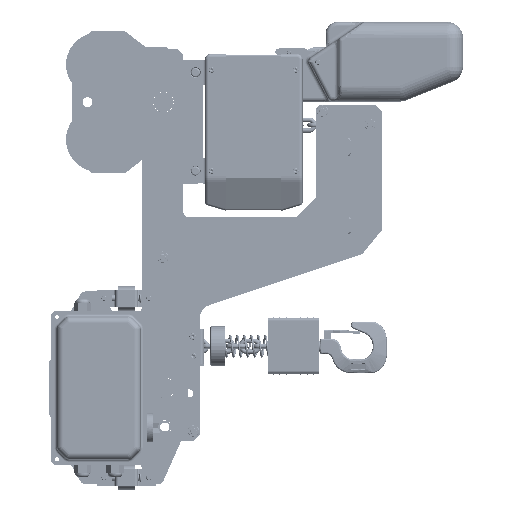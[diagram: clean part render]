
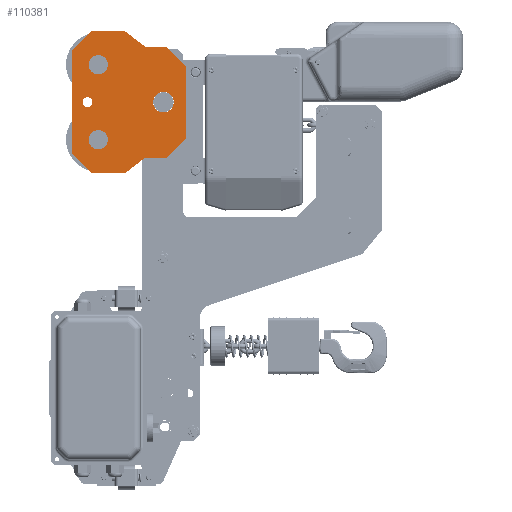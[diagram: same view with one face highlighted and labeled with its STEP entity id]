
A CAD part, left-side view. The second image highlights one B-rep face of the part: STEP entity #110381.
In plain terms, the highlighted planar face has unit normal (-1, 0, 0).
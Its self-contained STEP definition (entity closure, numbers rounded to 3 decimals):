
#6467=LINE('',#216607,#14108);
#6471=LINE('',#216616,#14112);
#6475=LINE('',#216625,#14116);
#6486=LINE('',#216671,#14127);
#6487=LINE('',#216674,#14128);
#6488=LINE('',#216676,#14129);
#6489=LINE('',#216678,#14130);
#6490=LINE('',#216680,#14131);
#6491=LINE('',#216684,#14132);
#6492=LINE('',#216688,#14133);
#6493=LINE('',#216695,#14134);
#6494=LINE('',#216699,#14135);
#14108=VECTOR('',#155306,1000.);
#14112=VECTOR('',#155312,1000.);
#14116=VECTOR('',#155318,1000.);
#14127=VECTOR('',#155359,1000.);
#14128=VECTOR('',#155360,1000.);
#14129=VECTOR('',#155361,1000.);
#14130=VECTOR('',#155362,1000.);
#14131=VECTOR('',#155363,1000.);
#14132=VECTOR('',#155366,1000.);
#14133=VECTOR('',#155369,1000.);
#14134=VECTOR('',#155378,1000.);
#14135=VECTOR('',#155381,1000.);
#19273=PLANE('',#135192);
#23381=CIRCLE('',#135193,14.75);
#23382=CIRCLE('',#135194,14.75);
#23383=CIRCLE('',#135195,1.);
#23384=CIRCLE('',#135196,1.);
#23385=CIRCLE('',#135197,1.);
#23386=CIRCLE('',#135198,1.);
#23387=CIRCLE('',#135199,1.);
#23388=CIRCLE('',#135200,1.);
#23389=CIRCLE('',#135201,1.);
#23390=CIRCLE('',#135202,1.);
#23391=CIRCLE('',#135203,7.5);
#23392=CIRCLE('',#135204,15.75);
#41855=ORIENTED_EDGE('',*,*,#66190,.T.);
#41856=ORIENTED_EDGE('',*,*,#66191,.T.);
#41857=ORIENTED_EDGE('',*,*,#66192,.F.);
#41858=ORIENTED_EDGE('',*,*,#66193,.T.);
#41859=ORIENTED_EDGE('',*,*,#66194,.F.);
#41860=ORIENTED_EDGE('',*,*,#66195,.T.);
#41861=ORIENTED_EDGE('',*,*,#66196,.F.);
#41862=ORIENTED_EDGE('',*,*,#66197,.T.);
#41863=ORIENTED_EDGE('',*,*,#66198,.T.);
#41864=ORIENTED_EDGE('',*,*,#66199,.T.);
#41865=ORIENTED_EDGE('',*,*,#66200,.F.);
#41866=ORIENTED_EDGE('',*,*,#66201,.T.);
#41867=ORIENTED_EDGE('',*,*,#66168,.F.);
#41868=ORIENTED_EDGE('',*,*,#66202,.T.);
#41869=ORIENTED_EDGE('',*,*,#66164,.F.);
#41870=ORIENTED_EDGE('',*,*,#66203,.T.);
#41871=ORIENTED_EDGE('',*,*,#66160,.F.);
#41872=ORIENTED_EDGE('',*,*,#66204,.T.);
#41873=ORIENTED_EDGE('',*,*,#66205,.F.);
#41874=ORIENTED_EDGE('',*,*,#66206,.T.);
#41875=ORIENTED_EDGE('',*,*,#66207,.T.);
#41876=ORIENTED_EDGE('',*,*,#66208,.T.);
#41877=ORIENTED_EDGE('',*,*,#66209,.F.);
#41878=ORIENTED_EDGE('',*,*,#66210,.F.);
#66160=EDGE_CURVE('',#79434,#79435,#6467,.F.);
#66164=EDGE_CURVE('',#79438,#79439,#6471,.F.);
#66168=EDGE_CURVE('',#79442,#79443,#6475,.F.);
#66190=EDGE_CURVE('',#79461,#79461,#23381,.T.);
#66191=EDGE_CURVE('',#79462,#79462,#23382,.T.);
#66192=EDGE_CURVE('',#79463,#79464,#6486,.T.);
#66193=EDGE_CURVE('',#79463,#79465,#6487,.F.);
#66194=EDGE_CURVE('',#79466,#79465,#6488,.F.);
#66195=EDGE_CURVE('',#79466,#79467,#6489,.F.);
#66196=EDGE_CURVE('',#79468,#79467,#6490,.T.);
#66197=EDGE_CURVE('',#79468,#79469,#23383,.F.);
#66198=EDGE_CURVE('',#79469,#79470,#6491,.F.);
#66199=EDGE_CURVE('',#79470,#79471,#23384,.T.);
#66200=EDGE_CURVE('',#79472,#79471,#6492,.F.);
#66201=EDGE_CURVE('',#79472,#79443,#23385,.F.);
#66202=EDGE_CURVE('',#79442,#79439,#23386,.F.);
#66203=EDGE_CURVE('',#79438,#79435,#23387,.F.);
#66204=EDGE_CURVE('',#79434,#79473,#23388,.F.);
#66205=EDGE_CURVE('',#79474,#79473,#6493,.F.);
#66206=EDGE_CURVE('',#79474,#79475,#23389,.T.);
#66207=EDGE_CURVE('',#79475,#79476,#6494,.F.);
#66208=EDGE_CURVE('',#79476,#79464,#23390,.F.);
#66209=EDGE_CURVE('',#79477,#79477,#23391,.F.);
#66210=EDGE_CURVE('',#79478,#79478,#23392,.F.);
#79434=VERTEX_POINT('',#216606);
#79435=VERTEX_POINT('',#216608);
#79438=VERTEX_POINT('',#216615);
#79439=VERTEX_POINT('',#216617);
#79442=VERTEX_POINT('',#216624);
#79443=VERTEX_POINT('',#216626);
#79461=VERTEX_POINT('',#216668);
#79462=VERTEX_POINT('',#216670);
#79463=VERTEX_POINT('',#216672);
#79464=VERTEX_POINT('',#216673);
#79465=VERTEX_POINT('',#216675);
#79466=VERTEX_POINT('',#216677);
#79467=VERTEX_POINT('',#216679);
#79468=VERTEX_POINT('',#216681);
#79469=VERTEX_POINT('',#216683);
#79470=VERTEX_POINT('',#216685);
#79471=VERTEX_POINT('',#216687);
#79472=VERTEX_POINT('',#216689);
#79473=VERTEX_POINT('',#216694);
#79474=VERTEX_POINT('',#216696);
#79475=VERTEX_POINT('',#216698);
#79476=VERTEX_POINT('',#216700);
#79477=VERTEX_POINT('',#216703);
#79478=VERTEX_POINT('',#216705);
#92116=EDGE_LOOP('',(#41855));
#92117=EDGE_LOOP('',(#41856));
#92118=EDGE_LOOP('',(#41857,#41858,#41859,#41860,#41861,#41862,#41863,#41864,
#41865,#41866,#41867,#41868,#41869,#41870,#41871,#41872,#41873,#41874,#41875,
#41876));
#92119=EDGE_LOOP('',(#41877));
#92120=EDGE_LOOP('',(#41878));
#100602=FACE_BOUND('',#92116,.T.);
#100603=FACE_BOUND('',#92117,.T.);
#100604=FACE_BOUND('',#92118,.T.);
#100605=FACE_BOUND('',#92119,.T.);
#100606=FACE_BOUND('',#92120,.T.);
#110381=ADVANCED_FACE('',(#100602,#100603,#100604,#100605,#100606),#19273,
 .F.);
#135192=AXIS2_PLACEMENT_3D('',#216666,#155353,#155354);
#135193=AXIS2_PLACEMENT_3D('',#216667,#155355,#155356);
#135194=AXIS2_PLACEMENT_3D('',#216669,#155357,#155358);
#135195=AXIS2_PLACEMENT_3D('',#216682,#155364,#155365);
#135196=AXIS2_PLACEMENT_3D('',#216686,#155367,#155368);
#135197=AXIS2_PLACEMENT_3D('',#216690,#155370,#155371);
#135198=AXIS2_PLACEMENT_3D('',#216691,#155372,#155373);
#135199=AXIS2_PLACEMENT_3D('',#216692,#155374,#155375);
#135200=AXIS2_PLACEMENT_3D('',#216693,#155376,#155377);
#135201=AXIS2_PLACEMENT_3D('',#216697,#155379,#155380);
#135202=AXIS2_PLACEMENT_3D('',#216701,#155382,#155383);
#135203=AXIS2_PLACEMENT_3D('',#216702,#155384,#155385);
#135204=AXIS2_PLACEMENT_3D('',#216704,#155386,#155387);
#155306=DIRECTION('',(0.,0.707,0.707));
#155312=DIRECTION('',(0.,0.,1.));
#155318=DIRECTION('',(0.,-0.707,0.707));
#155353=DIRECTION('',(1.,0.,0.));
#155354=DIRECTION('',(0.,0.,1.));
#155355=DIRECTION('',(1.,0.,0.));
#155356=DIRECTION('',(0.,-1.,0.));
#155357=DIRECTION('',(1.,0.,0.));
#155358=DIRECTION('',(0.,-1.,0.));
#155359=DIRECTION('',(0.,-1.,0.));
#155360=DIRECTION('',(0.,-0.707,0.707));
#155361=DIRECTION('',(0.,0.,-1.));
#155362=DIRECTION('',(0.,0.707,0.707));
#155363=DIRECTION('',(0.,1.,0.));
#155364=DIRECTION('',(1.,0.,0.));
#155365=DIRECTION('',(0.,0.,-1.));
#155366=DIRECTION('',(0.,0.791,-0.611));
#155367=DIRECTION('',(1.,0.,0.));
#155368=DIRECTION('',(0.,0.,-1.));
#155369=DIRECTION('',(0.,-1.,0.));
#155370=DIRECTION('',(1.,0.,0.));
#155371=DIRECTION('',(0.,0.,-1.));
#155372=DIRECTION('',(1.,0.,0.));
#155373=DIRECTION('',(0.,0.,-1.));
#155374=DIRECTION('',(1.,0.,0.));
#155375=DIRECTION('',(0.,0.,-1.));
#155376=DIRECTION('',(1.,0.,0.));
#155377=DIRECTION('',(0.,0.,-1.));
#155378=DIRECTION('',(0.,1.,0.));
#155379=DIRECTION('',(1.,0.,0.));
#155380=DIRECTION('',(0.,0.,-1.));
#155381=DIRECTION('',(0.,-0.791,-0.611));
#155382=DIRECTION('',(1.,0.,0.));
#155383=DIRECTION('',(0.,0.,-1.));
#155384=DIRECTION('',(1.,0.,0.));
#155385=DIRECTION('',(0.,0.,1.));
#155386=DIRECTION('',(1.,0.,0.));
#155387=DIRECTION('',(0.,1.,0.));
#216606=CARTESIAN_POINT('',(-374.778,-533.035,85.207));
#216607=CARTESIAN_POINT('',(-374.778,-556.884,61.358));
#216608=CARTESIAN_POINT('',(-374.778,-562.449,55.793));
#216615=CARTESIAN_POINT('',(-374.778,-562.742,55.086));
#216616=CARTESIAN_POINT('',(-374.778,-562.742,-46.216));
#216617=CARTESIAN_POINT('',(-374.778,-562.742,-54.086));
#216624=CARTESIAN_POINT('',(-374.778,-562.449,-54.793));
#216625=CARTESIAN_POINT('',(-374.778,-538.6,-78.642));
#216626=CARTESIAN_POINT('',(-374.778,-533.035,-84.207));
#216666=CARTESIAN_POINT('',(-374.778,-433.472,-108.5));
#216667=CARTESIAN_POINT('',(-374.778,-427.742,-57.));
#216668=CARTESIAN_POINT('',(-374.778,-442.492,-57.));
#216669=CARTESIAN_POINT('',(-374.778,-427.742,58.));
#216670=CARTESIAN_POINT('',(-374.778,-442.492,58.));
#216671=CARTESIAN_POINT('',(-374.778,-457.742,109.5));
#216672=CARTESIAN_POINT('',(-374.778,-417.742,109.5));
#216673=CARTESIAN_POINT('',(-374.778,-468.269,109.5));
#216674=CARTESIAN_POINT('',(-374.778,-387.742,79.5));
#216675=CARTESIAN_POINT('',(-374.778,-387.742,79.5));
#216676=CARTESIAN_POINT('',(-374.778,-387.742,32.7));
#216677=CARTESIAN_POINT('',(-374.778,-387.742,-78.5));
#216678=CARTESIAN_POINT('',(-374.778,-417.742,-108.5));
#216679=CARTESIAN_POINT('',(-374.778,-417.742,-108.5));
#216680=CARTESIAN_POINT('',(-374.778,-417.742,-108.5));
#216681=CARTESIAN_POINT('',(-374.778,-468.269,-108.5));
#216682=CARTESIAN_POINT('',(-374.778,-468.269,-107.5));
#216683=CARTESIAN_POINT('',(-374.778,-468.88,-108.291));
#216684=CARTESIAN_POINT('',(-374.778,-448.058,-124.374));
#216685=CARTESIAN_POINT('',(-374.778,-499.413,-84.709));
#216686=CARTESIAN_POINT('',(-374.778,-500.024,-85.5));
#216687=CARTESIAN_POINT('',(-374.778,-500.024,-84.5));
#216688=CARTESIAN_POINT('',(-374.778,-495.472,-84.5));
#216689=CARTESIAN_POINT('',(-374.778,-532.328,-84.5));
#216690=CARTESIAN_POINT('',(-374.778,-532.328,-83.5));
#216691=CARTESIAN_POINT('',(-374.778,-561.742,-54.086));
#216692=CARTESIAN_POINT('',(-374.778,-561.742,55.086));
#216693=CARTESIAN_POINT('',(-374.778,-532.328,84.5));
#216694=CARTESIAN_POINT('',(-374.778,-532.328,85.5));
#216695=CARTESIAN_POINT('',(-374.778,-527.188,85.5));
#216696=CARTESIAN_POINT('',(-374.778,-500.024,85.5));
#216697=CARTESIAN_POINT('',(-374.778,-500.024,86.5));
#216698=CARTESIAN_POINT('',(-374.778,-499.413,85.709));
#216699=CARTESIAN_POINT('',(-374.778,-571.932,29.697));
#216700=CARTESIAN_POINT('',(-374.778,-468.88,109.291));
#216701=CARTESIAN_POINT('',(-374.778,-468.269,108.5));
#216702=CARTESIAN_POINT('',(-374.778,-411.242,0.5));
#216703=CARTESIAN_POINT('',(-374.778,-411.242,8.));
#216704=CARTESIAN_POINT('',(-374.778,-527.742,0.5));
#216705=CARTESIAN_POINT('',(-374.778,-511.992,0.5));
